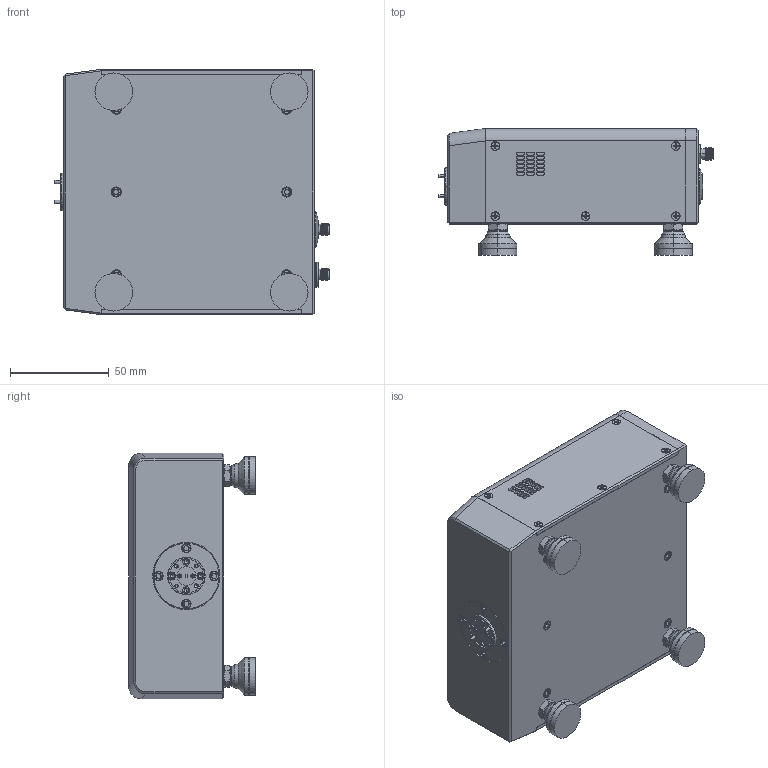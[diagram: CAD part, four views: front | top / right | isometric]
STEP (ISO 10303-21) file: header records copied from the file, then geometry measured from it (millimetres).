
FILE_DESCRIPTION (( 'STEP AP214' ), '1' );
FILE_NAME ('TC-D-A, Deafeatured.STEP', '2024-05-13T18:32:13', ( '' ), ( '' ), 'SwSTEP 2.0', 'SolidWorks 2021', '' );
FILE_SCHEMA (( 'AUTOMOTIVE_DESIGN' ));
Length unit declared in the file: inch
Products named in the file (1): TC-D-A, Deafeatured
Bounding box: 139.21 x 64.14 x 124.32 mm (x, y, z)
Volume: 761851.6 mm3; surface area: 106614.9 mm2
Topology: 19 solids, 20 shells, 1571 faces, 4008 edges, 2536 vertices
Faces by surface type: plane 765, cylinder 469, cone 320, sphere 9, bspline 6, torus 2
Entity records: 69682 total; most frequent: CARTESIAN_POINT 12030, ORIENTED_EDGE 7932, DIRECTION 7614, EDGE_CURVE 3966, AXIS2_PLACEMENT_3D 2821, VERTEX_POINT 2535, LINE 1972, VECTOR 1972
